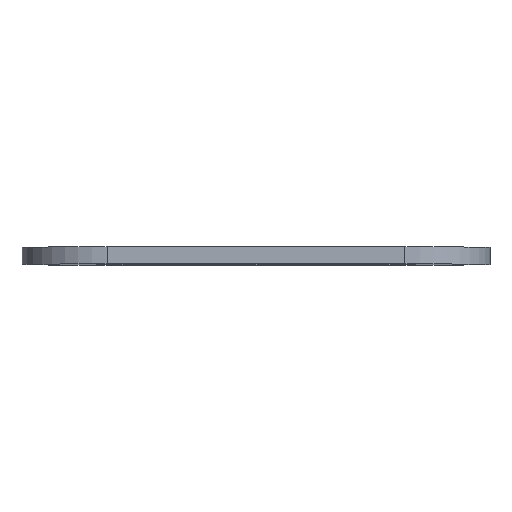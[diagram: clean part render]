
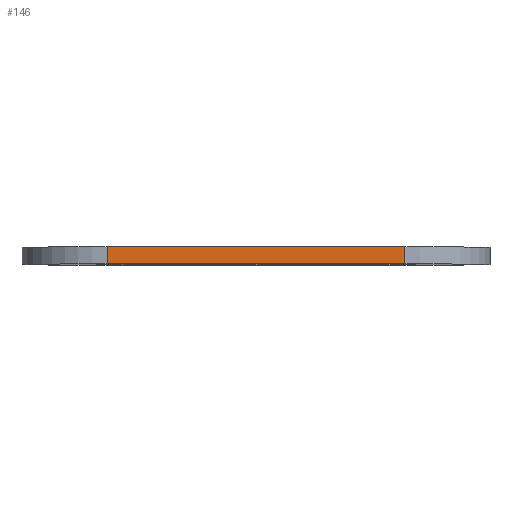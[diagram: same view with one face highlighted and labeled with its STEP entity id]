
A CAD part, top view. The second image highlights one B-rep face of the part: STEP entity #146.
In plain terms, the highlighted planar face has unit normal (0, 0, 1).
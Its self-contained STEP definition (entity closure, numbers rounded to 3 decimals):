
#40 = ORIENTED_EDGE ( 'NONE', *, *, #675, .T. ) ;
#54 = VERTEX_POINT ( 'NONE', #155 ) ;
#63 = AXIS2_PLACEMENT_3D ( 'NONE', #682, #554, #626 ) ;
#85 = FACE_OUTER_BOUND ( 'NONE', #591, .T. ) ;
#140 = CARTESIAN_POINT ( 'NONE',  ( 47.5, 2., -14. ) ) ;
#146 = ADVANCED_FACE ( 'NONE', ( #85 ), #173, .F. ) ;
#155 = CARTESIAN_POINT ( 'NONE',  ( 12.5, 0., -14. ) ) ;
#171 = DIRECTION ( 'NONE',  ( 1., 0., 0. ) ) ;
#173 = PLANE ( 'NONE',  #63 ) ;
#192 = VECTOR ( 'NONE', #741, 1000. ) ;
#223 = LINE ( 'NONE', #548, #192 ) ;
#240 = CARTESIAN_POINT ( 'NONE',  ( 12.5, 2., -14. ) ) ;
#255 = ORIENTED_EDGE ( 'NONE', *, *, #686, .T. ) ;
#256 = LINE ( 'NONE', #140, #367 ) ;
#283 = VERTEX_POINT ( 'NONE', #419 ) ;
#286 = LINE ( 'NONE', #295, #613 ) ;
#295 = CARTESIAN_POINT ( 'NONE',  ( 2.5, 0., -14. ) ) ;
#306 = CARTESIAN_POINT ( 'NONE',  ( 2.5, 2., -14. ) ) ;
#325 = VECTOR ( 'NONE', #425, 1000. ) ;
#351 = EDGE_CURVE ( 'NONE', #828, #491, #355, .T. ) ;
#355 = LINE ( 'NONE', #306, #325 ) ;
#367 = VECTOR ( 'NONE', #595, 1000. ) ;
#419 = CARTESIAN_POINT ( 'NONE',  ( 47.5, 0., -14. ) ) ;
#425 = DIRECTION ( 'NONE',  ( 1., 0., 0. ) ) ;
#478 = EDGE_CURVE ( 'NONE', #283, #491, #256, .T. ) ;
#491 = VERTEX_POINT ( 'NONE', #770 ) ;
#548 = CARTESIAN_POINT ( 'NONE',  ( 12.5, 2., -14. ) ) ;
#554 = DIRECTION ( 'NONE',  ( 0., 0., -1. ) ) ;
#591 = EDGE_LOOP ( 'NONE', ( #40, #753, #805, #255 ) ) ;
#595 = DIRECTION ( 'NONE',  ( 0., 1., 0. ) ) ;
#613 = VECTOR ( 'NONE', #171, 1000. ) ;
#626 = DIRECTION ( 'NONE',  ( -1., 0., 0. ) ) ;
#675 = EDGE_CURVE ( 'NONE', #54, #283, #286, .T. ) ;
#682 = CARTESIAN_POINT ( 'NONE',  ( 2.5, 2., -14. ) ) ;
#686 = EDGE_CURVE ( 'NONE', #828, #54, #223, .T. ) ;
#741 = DIRECTION ( 'NONE',  ( 0., -1., 0. ) ) ;
#753 = ORIENTED_EDGE ( 'NONE', *, *, #478, .T. ) ;
#770 = CARTESIAN_POINT ( 'NONE',  ( 47.5, 2., -14. ) ) ;
#805 = ORIENTED_EDGE ( 'NONE', *, *, #351, .F. ) ;
#828 = VERTEX_POINT ( 'NONE', #240 ) ;
